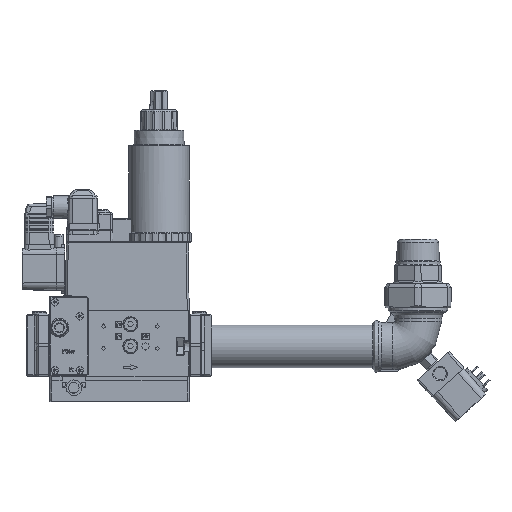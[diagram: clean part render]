
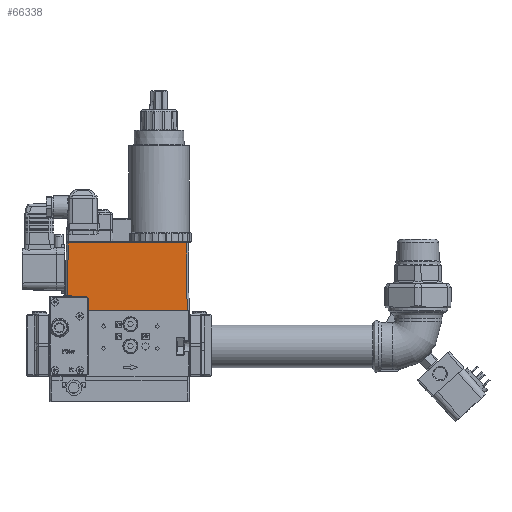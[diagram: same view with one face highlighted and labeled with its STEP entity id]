
A CAD part, top view. The second image highlights one B-rep face of the part: STEP entity #66338.
In plain terms, the highlighted planar face has unit normal (0, 0.009, 1).
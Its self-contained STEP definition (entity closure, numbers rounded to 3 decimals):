
#2169 = EDGE_CURVE ( 'NONE', #5947, #84795, #21680, .T. ) ;
#2494 = EDGE_CURVE ( 'NONE', #87817, #5947, #124503, .T. ) ;
#4835 = VECTOR ( 'NONE', #90868, 1000. ) ;
#5947 = VERTEX_POINT ( 'NONE', #114425 ) ;
#7386 = VERTEX_POINT ( 'NONE', #78136 ) ;
#8064 = CARTESIAN_POINT ( 'NONE',  ( -74.244, 12.806, 47.388 ) ) ;
#8374 = EDGE_CURVE ( 'NONE', #62429, #103898, #86656, .T. ) ;
#9035 = DIRECTION ( 'NONE',  ( -0.009, 1., -0.009 ) ) ;
#9837 = DIRECTION ( 'NONE',  ( -0.009, 1., -0.009 ) ) ;
#10466 = CARTESIAN_POINT ( 'NONE',  ( -90.693, 67.009, 46.915 ) ) ;
#15064 = ORIENTED_EDGE ( 'NONE', *, *, #46512, .F. ) ;
#21680 = LINE ( 'NONE', #65222, #75180 ) ;
#21871 = LINE ( 'NONE', #45089, #4835 ) ;
#25541 = CARTESIAN_POINT ( 'NONE',  ( 28., 0., 47.5 ) ) ;
#28246 = DIRECTION ( 'NONE',  ( 1., 0., 0. ) ) ;
#28860 = CARTESIAN_POINT ( 'NONE',  ( -96.95, 70.359, 46.886 ) ) ;
#32208 = ORIENTED_EDGE ( 'NONE', *, *, #8374, .T. ) ;
#37398 = EDGE_LOOP ( 'NONE', ( #78113, #138182, #55160, #108335, #85750, #15064, #137674, #32208, #62109 ) ) ;
#38893 = VECTOR ( 'NONE', #9837, 1000. ) ;
#38952 = DIRECTION ( 'NONE',  ( -0.006, -1., 0.009 ) ) ;
#39599 = AXIS2_PLACEMENT_3D ( 'NONE', #28860, #61171, #96384 ) ;
#40190 = CARTESIAN_POINT ( 'NONE',  ( -96.95, 14.2, 47.376 ) ) ;
#41958 = DIRECTION ( 'NONE',  ( 0., -1., 0.009 ) ) ;
#45089 = CARTESIAN_POINT ( 'NONE',  ( -96.95, 0., 47.5 ) ) ;
#46512 = EDGE_CURVE ( 'NONE', #7386, #138238, #123748, .T. ) ;
#52313 = CARTESIAN_POINT ( 'NONE',  ( -73.244, 11.806, 47.397 ) ) ;
#52325 = CARTESIAN_POINT ( 'NONE',  ( -74.244, 12.806, 47.388 ) ) ;
#52915 = DIRECTION ( 'NONE',  ( 1., 0., 0. ) ) ;
#55160 = ORIENTED_EDGE ( 'NONE', *, *, #2169, .T. ) ;
#55363 = VECTOR ( 'NONE', #38952, 1000. ) ;
#56208 = DIRECTION ( 'NONE',  ( 1., 0., 0. ) ) ;
#60972 = VERTEX_POINT ( 'NONE', #25541 ) ;
#61171 = DIRECTION ( 'NONE',  ( 0., 0.009, 1. ) ) ;
#62109 = ORIENTED_EDGE ( 'NONE', *, *, #105661, .F. ) ;
#62429 = VERTEX_POINT ( 'NONE', #75512 ) ;
#65222 = CARTESIAN_POINT ( 'NONE',  ( -73.244, 70.359, 46.886 ) ) ;
#66012 = LINE ( 'NONE', #111780, #131719 ) ;
#66338 = ADVANCED_FACE ( 'NONE', ( #140659 ), #86574, .T. ) ;
#75180 = VECTOR ( 'NONE', #41958, 1000. ) ;
#75512 = CARTESIAN_POINT ( 'NONE',  ( -91., 14.2, 47.376 ) ) ;
#76253 = EDGE_CURVE ( 'NONE', #7386, #62429, #141703, .T. ) ;
#78113 = ORIENTED_EDGE ( 'NONE', *, *, #110540, .T. ) ;
#78136 = CARTESIAN_POINT ( 'NONE',  ( -90.693, 67.009, 46.915 ) ) ;
#79518 = CARTESIAN_POINT ( 'NONE',  ( -87.058, 12.806, 47.388 ) ) ;
#82796 = VERTEX_POINT ( 'NONE', #142140 ) ;
#84795 = VERTEX_POINT ( 'NONE', #114267 ) ;
#85750 = ORIENTED_EDGE ( 'NONE', *, *, #96631, .T. ) ;
#86574 = PLANE ( 'NONE',  #39599 ) ;
#86656 = LINE ( 'NONE', #40190, #135837 ) ;
#87817 = VERTEX_POINT ( 'NONE', #52325 ) ;
#88169 = CARTESIAN_POINT ( 'NONE',  ( -96.95, 12.806, 47.388 ) ) ;
#90868 = DIRECTION ( 'NONE',  ( 1., 0., 0. ) ) ;
#96384 = DIRECTION ( 'NONE',  ( 0., -1., 0.009 ) ) ;
#96631 = EDGE_CURVE ( 'NONE', #60972, #138238, #66012, .T. ) ;
#98063 = CARTESIAN_POINT ( 'NONE',  ( -73.352, 12.328, 47.392 ) ) ;
#100185 = VECTOR ( 'NONE', #28246, 1000. ) ;
#100288 = CARTESIAN_POINT ( 'NONE',  ( -73.244, 12.068, 47.395 ) ) ;
#103898 = VERTEX_POINT ( 'NONE', #114389 ) ;
#104853 = CARTESIAN_POINT ( 'NONE',  ( 27.415, 67.009, 46.915 ) ) ;
#105661 = EDGE_CURVE ( 'NONE', #82796, #103898, #123843, .T. ) ;
#108335 = ORIENTED_EDGE ( 'NONE', *, *, #135903, .T. ) ;
#110410 = VECTOR ( 'NONE', #56208, 1000. ) ;
#110540 = EDGE_CURVE ( 'NONE', #82796, #87817, #122685, .T. ) ;
#111780 = CARTESIAN_POINT ( 'NONE',  ( 28., 0., 47.5 ) ) ;
#114267 = CARTESIAN_POINT ( 'NONE',  ( -73.244, 0., 47.5 ) ) ;
#114389 = CARTESIAN_POINT ( 'NONE',  ( -87.07, 14.2, 47.376 ) ) ;
#114425 = CARTESIAN_POINT ( 'NONE',  ( -73.244, 11.806, 47.397 ) ) ;
#119240 = CARTESIAN_POINT ( 'NONE',  ( -90.693, 67.009, 46.915 ) ) ;
#122685 = LINE ( 'NONE', #88169, #100185 ) ;
#122783 = CARTESIAN_POINT ( 'NONE',  ( -73.722, 12.698, 47.389 ) ) ;
#123748 = LINE ( 'NONE', #10466, #110410 ) ;
#123843 = LINE ( 'NONE', #79518, #38893 ) ;
#124503 = B_SPLINE_CURVE_WITH_KNOTS ( 'NONE', 3,
 ( #8064, #134022, #122783, #98063, #100288, #52313 ),
 .UNSPECIFIED., .F., .F.,
 ( 4, 2, 4 ),
 ( 0., 0.001, 0.002 ),
 .UNSPECIFIED. ) ;
#131719 = VECTOR ( 'NONE', #9035, 1000. ) ;
#134022 = CARTESIAN_POINT ( 'NONE',  ( -73.982, 12.806, 47.388 ) ) ;
#135837 = VECTOR ( 'NONE', #52915, 1000. ) ;
#135903 = EDGE_CURVE ( 'NONE', #84795, #60972, #21871, .T. ) ;
#137674 = ORIENTED_EDGE ( 'NONE', *, *, #76253, .T. ) ;
#138182 = ORIENTED_EDGE ( 'NONE', *, *, #2494, .T. ) ;
#138238 = VERTEX_POINT ( 'NONE', #104853 ) ;
#140659 = FACE_OUTER_BOUND ( 'NONE', #37398, .T. ) ;
#141703 = LINE ( 'NONE', #119240, #55363 ) ;
#142140 = CARTESIAN_POINT ( 'NONE',  ( -87.058, 12.806, 47.388 ) ) ;
